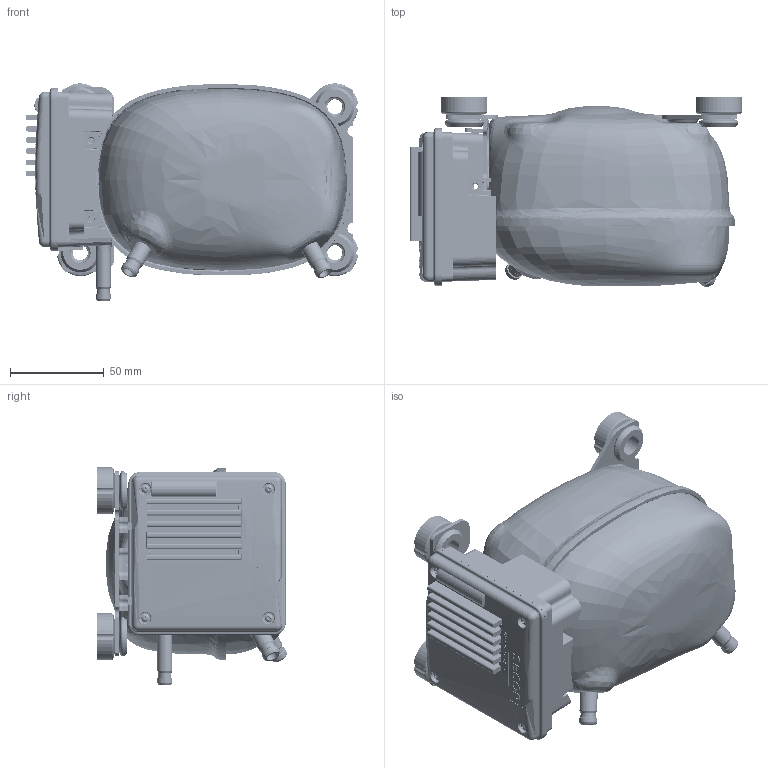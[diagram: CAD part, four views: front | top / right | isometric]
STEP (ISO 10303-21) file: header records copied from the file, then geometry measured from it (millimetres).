
FILE_DESCRIPTION((''),'2;1');
FILE_NAME('101B0020_101B0158_WITH_101N1XXX_ASM','2021-03-12T10:39:29',('CN6198'),(''),'CREO PARAMETRIC BY PTC INC, 2020053','CREO PARAMETRIC BY PTC INC, 2020053','');
FILE_SCHEMA(('CONFIG_CONTROL_DESIGN'));
Products named in the file (37): 101B0014_SKEL_1; 101B0402_1; 101B0651_1; 101B0510_1; 101B0509_1; 101B0601_1; 101B0618_1; 101B0627_1; 101B6007_1; 101B0628_1; 101B0629_1; 101B0020_ASM_2_ASM; 101B0158_1; 101B0313_AF0_1; 101B0609_1; 101B0809_1; 101B0158_ASM_1_ASM; 117-3617_BODY_2; 117-3632_PINS_2; 117-3617_GLASS_FUSED_2; 117-3632_ASM_2_ASM; 118-3661_1; 101B0813_BEND_7; 101B0020_101B0158_NONE_ASM_2_ASM; 101B0020_101B0158_NONE_ASM; 105B4147_1; 105B0082_5_1; 117L0568_1; 1217264-1_1; 105B4151_ASM_1_ASM; 105B0082_ASM_1_ASM; 105B4146_1; 640N0578_1; 105B4173_1; 105B9011_ASM_1_ASM; 105B9011_ASM; 101B0020_101B0158_WITH_101N1XXX_ASM
Assembly tree (52 placements, depth 6):
  101B0020_101B0158_WITH_101N1XXX_ASM
    101B0020_101B0158_NONE_ASM
      101B0020_101B0158_NONE_ASM_2_ASM
        101B0020_ASM_2_ASM
          101B0014_SKEL_1
          101B0402_1
          101B0651_1  x4
          101B0510_1
          101B0509_1
          101B0601_1
          101B0618_1
          101B0627_1
          101B6007_1
          101B0628_1
          101B0629_1
        101B0158_ASM_1_ASM
          101B0158_1
          101B0313_AF0_1
          101B0609_1
          101B0809_1  x2
        117-3632_ASM_2_ASM
          117-3617_BODY_2
          117-3632_PINS_2  x3
          117-3617_GLASS_FUSED_2  x3
        118-3661_1  x4
        101B0813_BEND_7
    105B9011_ASM
      105B9011_ASM_1_ASM
        105B4147_1
        105B0082_ASM_1_ASM
          105B0082_5_1
          105B4151_ASM_1_ASM
            117L0568_1
            1217264-1_1  x3
        105B4146_1
        640N0578_1  x4
        105B4173_1
Bounding box: 177.39 x 101.23 x 116.02 mm (x, y, z)
Volume: 230542.2 mm3; surface area: 243776.5 mm2
Topology: 41 solids, 513 shells, 12120 faces, 34550 edges, 23004 vertices
Faces by surface type: plane 7392, cylinder 2840, bspline 943, cone 369, torus 354, sphere 175, extrusion 31, revolution 16
Entity records: 437295 total; most frequent: CARTESIAN_POINT 162156, ORIENTED_EDGE 57297, DIRECTION 51239, EDGE_CURVE 31938, VERTEX_POINT 21474, VECTOR 18851, LINE 18820, AXIS2_PLACEMENT_3D 16190
